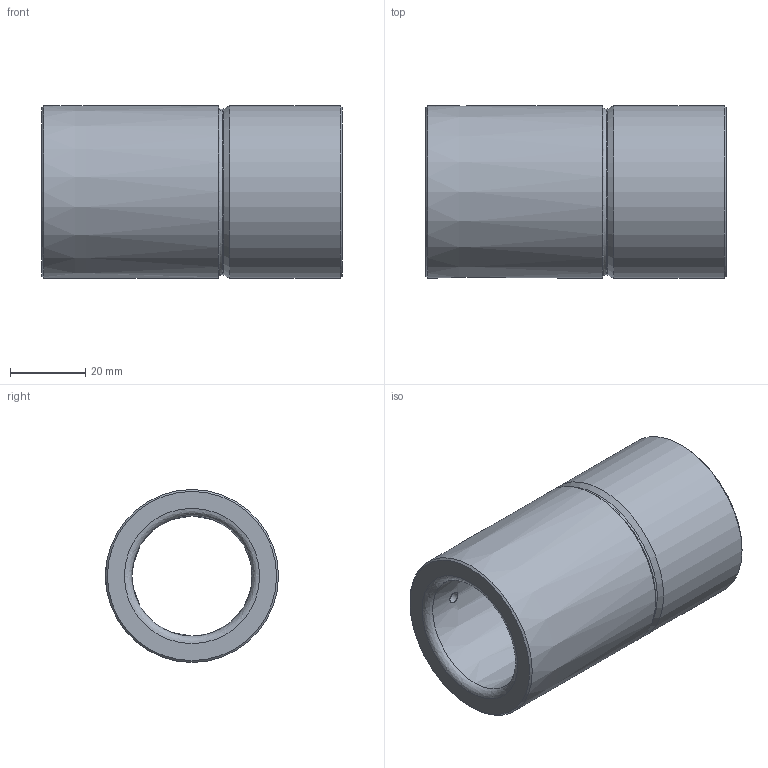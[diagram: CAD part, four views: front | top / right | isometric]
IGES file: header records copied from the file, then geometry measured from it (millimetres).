
Start section: Data from Parasolid IGES Translator 20.0.26, Copyright(c) 2006 Siemens P LM Software. All Rights Reserved.
Global section: file name: WZ 4068 32 x 80.igs; native system: By Siemens PLM Incorporated; preprocessor: XPlus GENERIC/IGES 20.0.26; author: Noname; organization: Noname; date: 20201126.202309; units: millimetre
Bounding box: 80 x 46.04 x 46.04 mm (x, y, z)
Surface area: 21552.2 mm2 (no closed solid volume)
Topology: 0 solids, 0 shells, 17 faces, 64 edges, 46 vertices
Faces by surface type: revolution 13, extrusion 4
